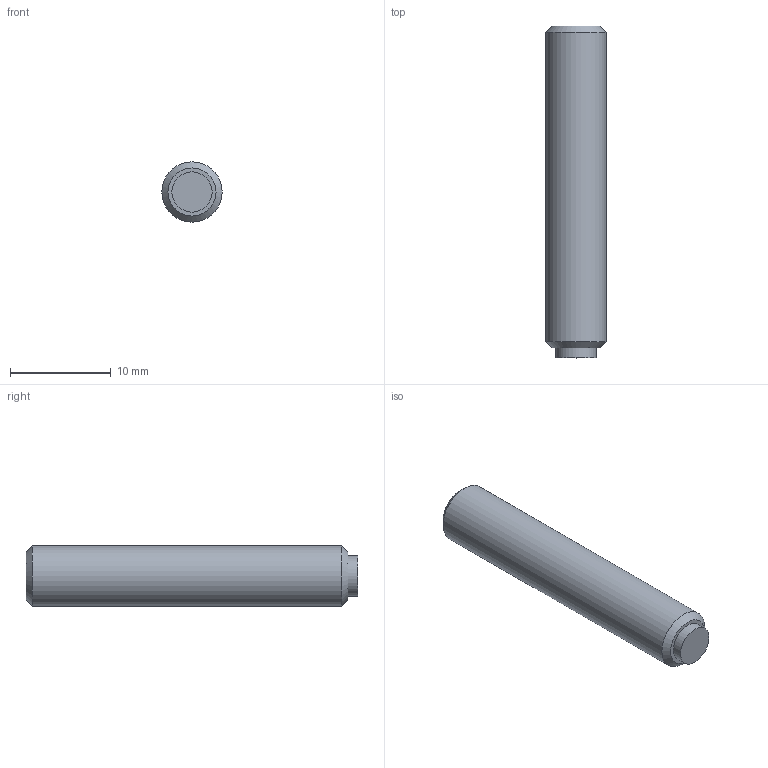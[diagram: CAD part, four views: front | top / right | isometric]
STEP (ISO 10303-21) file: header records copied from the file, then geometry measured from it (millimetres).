
FILE_DESCRIPTION( ( 'STEP AP203' ), '1' );
FILE_NAME( 'C:/Temp/Ganter_Step_05_03_2020/data/3_2/gn913_3/Grub screw GN 913.3-M6-32-MS.stp', '2020-03-13T05:35:49', ( 'License CC BY-ND 4.0' ), ( 'CADENAS' ), ' ', 'PARTsolutions', ' ' );
FILE_SCHEMA( ( 'CONFIG_CONTROL_DESIGN' ) );
Length unit declared in the file: millimetre
Products named in the file (1): _Grub screw GN 913.3-M6-32-MS
Bounding box: 6 x 33 x 6 mm (x, y, z)
Volume: 883.5 mm3; surface area: 694.1 mm2
Topology: 1 solids, 1 shells, 14 faces, 28 edges, 18 vertices
Faces by surface type: plane 10, cylinder 2, cone 2
Full cylindrical faces by diameter (mm): 4 x1, 6 x1
Entity records: 386 total; most frequent: DIRECTION 60, CARTESIAN_POINT 57, ORIENTED_EDGE 48, EDGE_CURVE 24, AXIS2_PLACEMENT_3D 21, EDGE_LOOP 20, VERTEX_POINT 18, LINE 18
